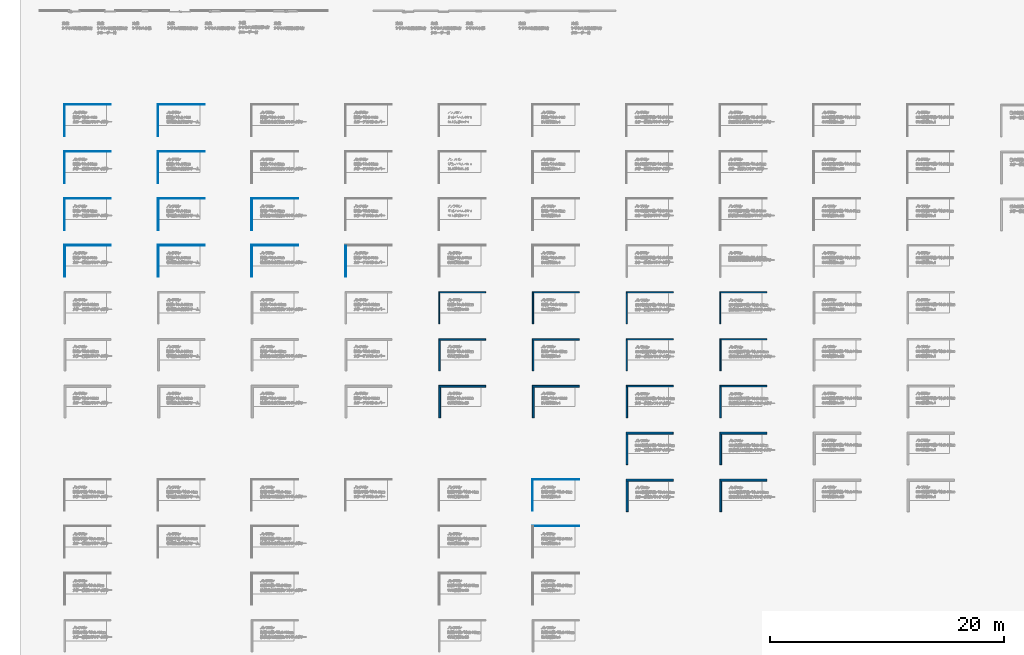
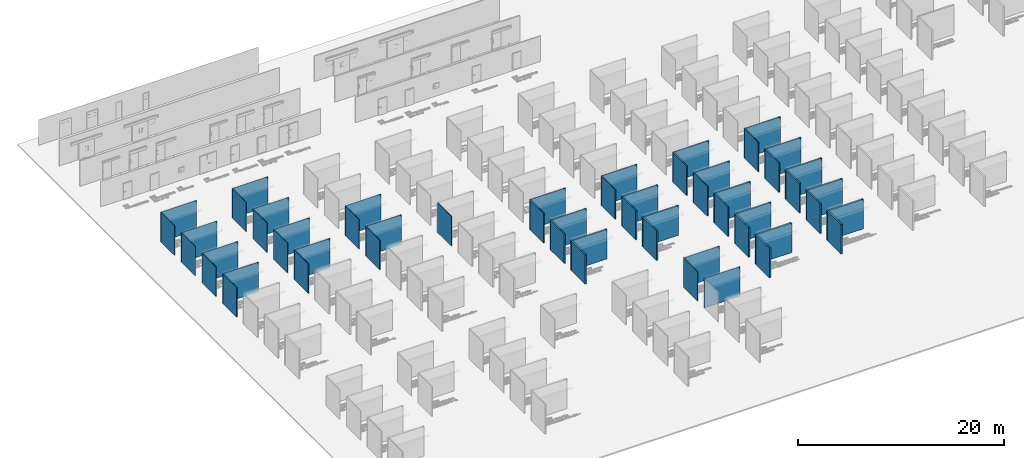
# One storey, part 2 of 16: 56 walls.
"""IFC2X3 building model written with IfcOpenShell, lengths in millimetres."""

import ifcopenshell
import ifcopenshell.guid

model = None  # the IFC model being written
_history = None  # IfcOwnerHistory: only IFC2X3 demands one
_inside = {}  # id of a spatial element -> (the spatial element, [elements in it])
_under = {}  # id of a project, library or spatial element -> (it, [spatial elements below it])
_declared = {}  # id of a project -> (the project, [libraries it declares])
_typed = {}  # id of a type object -> (the type object, [elements of that type])
_made_of = {}  # id of a material, layer set ... -> (it, [elements and type objects made of it])


def new_model(schema):
    """Start an empty IFC model of exactly this schema.

    Asked for "IFC4X3", IfcOpenShell would pick the latest addendum, in which some entities
    have other attributes; the version numbers below select the first issue.
    IFC2X3 requires an IfcOwnerHistory on every rooted entity: one is made here for all.
    """
    global model, _history
    if schema == "IFC4X3":
        model = ifcopenshell.file(schema_version=(4, 3, 0, 0))
    else:
        model = ifcopenshell.file(schema=schema)
    _inside.clear()
    _under.clear()
    _declared.clear()
    _typed.clear()
    _made_of.clear()
    _history = None
    if model.schema == "IFC2X3":
        org = make("IfcOrganization", Name="unknown")
        user = make(
            "IfcPersonAndOrganization",
            ThePerson=make("IfcPerson", FamilyName="unknown"),
            TheOrganization=org,
        )
        app = make(
            "IfcApplication",
            ApplicationDeveloper=org,
            Version="unknown",
            ApplicationFullName="unknown",
            ApplicationIdentifier="unknown",
        )
        _history = make(
            "IfcOwnerHistory",
            OwningUser=user,
            OwningApplication=app,
            ChangeAction="ADDED",
            CreationDate=0,
        )
    return model


def make(cls, **values):
    """One entity of the class cls with the attributes given. An attribute that is None is left unset."""
    return model.create_entity(
        cls, **{name: value for name, value in values.items() if value is not None}
    )


def entity(cls, *values):
    """Any entity or typed value of the class cls, its attributes in the order of the schema. None: left unset."""
    e = model.create_entity(cls)
    for i, value in enumerate(values):
        if value is not None:
            e[i] = value
    return e


def rooted(cls, **values):
    """An entity with a GlobalId (a new one), such as an element, a storey or a relation."""
    return make(cls, GlobalId=ifcopenshell.guid.new(), OwnerHistory=_history, **values)


def si_unit(unit_type, name, prefix=None):
    """IfcSIUnit, for example si_unit("LENGTHUNIT", "METRE", prefix="MILLI")."""
    return make("IfcSIUnit", UnitType=unit_type, Prefix=prefix, Name=name)


def converted_unit(unit_type, name, factor, base, dimensions=None, offset=None):
    """IfcConversionBasedUnit, such as the inch: factor (a typed value) times the base unit."""
    return make(
        "IfcConversionBasedUnit"
        if offset is None
        else "IfcConversionBasedUnitWithOffset",
        ConversionOffset=offset,
        Dimensions=None
        if dimensions is None
        else entity("IfcDimensionalExponents", *dimensions),
        UnitType=unit_type,
        Name=name,
        ConversionFactor=make(
            "IfcMeasureWithUnit", ValueComponent=factor, UnitComponent=base
        ),
    )


def derived_unit(unit_type, elements):
    """IfcDerivedUnit: a product of units, each with its exponent."""
    return make(
        "IfcDerivedUnit",
        Elements=[
            make("IfcDerivedUnitElement", Unit=unit, Exponent=power)
            for unit, power in elements
        ],
        UnitType=unit_type,
    )


def assignment(units):
    """IfcUnitAssignment: the units of a project."""
    return None if units is None else make("IfcUnitAssignment", Units=units)


def point(xyz):
    """IfcCartesianPoint."""
    return None if xyz is None else make("IfcCartesianPoint", Coordinates=xyz)


def direction(xyz):
    """IfcDirection."""
    return None if xyz is None else make("IfcDirection", DirectionRatios=xyz)


def frame(location, z_axis=None, x_axis=None):
    """IfcAxis2Placement3D, a coordinate frame: its origin and axes. An axis left out is left unset."""
    return make(
        "IfcAxis2Placement3D",
        Location=point(location),
        Axis=direction(z_axis),
        RefDirection=direction(x_axis),
    )


def frame_2d(location, x_axis=None):
    """IfcAxis2Placement2D, a coordinate frame in the plane: its origin and x axis."""
    return make(
        "IfcAxis2Placement2D", Location=point(location), RefDirection=direction(x_axis)
    )


def origin():
    """The frame at (0, 0, 0) with its axes left unset."""
    return frame((0.0, 0.0, 0.0))


def place(relative_to, where):
    """IfcLocalPlacement: puts the frame where relative to a parent placement (None: the world)."""
    return make(
        "IfcLocalPlacement", PlacementRelTo=relative_to, RelativePlacement=where
    )


def context(
    kind, dimensions, precision=None, world=None, true_north=None, identifier=None
):
    """IfcGeometricRepresentationContext, for example the 3D "Model" context."""
    return make(
        "IfcGeometricRepresentationContext",
        ContextIdentifier=identifier,
        ContextType=kind,
        CoordinateSpaceDimension=dimensions,
        Precision=precision,
        WorldCoordinateSystem=world,
        TrueNorth=true_north,
    )


def subcontext(parent, identifier, kind, view, scale=None):
    """IfcGeometricRepresentationSubContext, for example "Body" below "Model"."""
    return make(
        "IfcGeometricRepresentationSubContext",
        ContextIdentifier=identifier,
        ContextType=kind,
        ParentContext=parent,
        TargetScale=scale,
        TargetView=view,
    )


def project(units=None, contexts=None):
    """IfcProject with its units and contexts."""
    return rooted(
        "IfcProject",
        Name="project",
        RepresentationContexts=contexts,
        UnitsInContext=assignment(units),
    )


def spatial(cls, under=None, at=None, **own):
    """A site, building, storey or space (cls), placed at a placement, below another one or the project."""
    s = rooted(cls, ObjectPlacement=at, **own)
    if under is not None:
        _under.setdefault(under.id(), (under, []))[1].append(s)
    return s


def profile(cls, at=None, kind="AREA", **sizes):
    """A parametric profile (cls). Its sizes go by their IFC names, for example OverallWidth=200.0."""
    return make(cls, ProfileType=kind, Position=at, **sizes)


def rectangle(**sizes):
    """IfcRectangleProfileDef."""
    return profile("IfcRectangleProfileDef", **sizes)


def extrude(swept, where, along, depth):
    """IfcExtrudedAreaSolid: the profile swept, set in the frame where, extruded along a direction by depth."""
    return make(
        "IfcExtrudedAreaSolid",
        SweptArea=swept,
        Position=where,
        ExtrudedDirection=direction(along),
        Depth=depth,
    )


def shape(context_of_items, identifier, shape_type, items):
    """IfcShapeRepresentation: the items that make up one representation, for example the "Body"."""
    return make(
        "IfcShapeRepresentation",
        ContextOfItems=context_of_items,
        RepresentationIdentifier=identifier,
        RepresentationType=shape_type,
        Items=items,
    )


def material(Name=None, Category=None):
    """IfcMaterial."""
    return make("IfcMaterial", Name=Name, Category=Category)


def layer(
    of_material, thickness, ventilated=None, Name=None, Category=None, Priority=None
):
    """IfcMaterialLayer: one layer of a wall or slab, of a material (None: an air gap)."""
    return make(
        "IfcMaterialLayer",
        Material=of_material,
        LayerThickness=thickness,
        IsVentilated=ventilated,
        Name=Name,
        Category=Category,
        Priority=Priority,
    )


def layer_set(layers, Name=None):
    """IfcMaterialLayerSet."""
    return make("IfcMaterialLayerSet", MaterialLayers=layers, LayerSetName=Name)


def layer_usage(for_layer_set, set_direction, sense, offset, extent=None):
    """IfcMaterialLayerSetUsage: how a layer set lies in its element."""
    return make(
        "IfcMaterialLayerSetUsage",
        ForLayerSet=for_layer_set,
        LayerSetDirection=set_direction,
        DirectionSense=sense,
        OffsetFromReferenceLine=offset,
        ReferenceExtent=extent,
    )


def made_of(thing, what):
    """Note that an element or type object is made of a material, layer set ...; save() writes the relation."""
    if what is not None:
        _made_of.setdefault(what.id(), (what, []))[1].append(thing)
    return thing


def type_object(cls, material=None, **own):
    """A type object (cls), such as IfcWallType, which elements share."""
    return made_of(rooted(cls, **own), material)


def element(
    cls,
    number,
    at=None,
    inside=None,
    cuts=None,
    type_object=None,
    material=None,
    context=None,
    identifier="Body",
    shape_type=None,
    held_by="IfcProductDefinitionShape",
    body=None,
    shapes=None,
    **own,
):
    """One element of the class cls, such as IfcWall. Its Tag is "e" and its number.

    at: its placement. inside: the storey or other place that contains it. cuts: it is an
    opening in that element (IfcRelVoidsElement). A single representation is given by context,
    identifier, shape_type and body (its items); several are given by shapes. held_by: the class
    of the entity that holds the representations. save() writes the other relations.
    """
    e = rooted(cls, Tag="e%d" % number, ObjectPlacement=at, **own)
    if body is not None:
        shapes = [shape(context, identifier, shape_type, body)]
    if shapes is not None:
        e.Representation = make(held_by, Representations=shapes)
    if inside is not None:
        _inside.setdefault(inside.id(), (inside, []))[1].append(e)
    if cuts is not None:
        rooted(
            "IfcRelVoidsElement", RelatingBuildingElement=cuts, RelatedOpeningElement=e
        )
    if type_object is not None:
        _typed.setdefault(type_object.id(), (type_object, []))[1].append(e)
    return made_of(e, material)


def aggregate(whole, parts):
    """IfcRelAggregates: a whole, such as a stair, and the parts it consists of."""
    return rooted("IfcRelAggregates", RelatingObject=whole, RelatedObjects=parts)


def save(model, path):
    """Write the relations noted so far, then the file.

    IfcRelAggregates (storeys below a building ...), IfcRelContainedInSpatialStructure (elements
    in a storey), IfcRelDefinesByType, IfcRelAssociatesMaterial and IfcRelDeclares: one each for
    every whole, place, type object, material and project.
    """
    for whole, parts in _under.values():
        aggregate(whole, parts)
    for where, things in _inside.values():
        rooted(
            "IfcRelContainedInSpatialStructure",
            RelatedElements=things,
            RelatingStructure=where,
        )
    for kind, things in _typed.values():
        rooted("IfcRelDefinesByType", RelatedObjects=things, RelatingType=kind)
    for what, things in _made_of.values():
        rooted("IfcRelAssociatesMaterial", RelatedObjects=things, RelatingMaterial=what)
    for by, libraries in _declared.values():
        rooted("IfcRelDeclares", RelatingContext=by, RelatedDefinitions=libraries)
    model.write(path)


model = new_model("IFC2X3")

# Units and contexts
model_context = context("Model", 3, precision=0.01, world=origin(), true_north=direction((6.123031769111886e-17, 1.0)))
body_context = subcontext(model_context, "Body", "Model", "MODEL_VIEW")
ifc_project = project(units=[si_unit("LENGTHUNIT", "METRE", prefix="MILLI"), si_unit("AREAUNIT", "SQUARE_METRE"), si_unit("VOLUMEUNIT", "CUBIC_METRE"), converted_unit("PLANEANGLEUNIT", "DEGREE", entity("IfcRatioMeasure", 0.017453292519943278), si_unit("PLANEANGLEUNIT", "RADIAN"), dimensions=[0, 0, 0, 0, 0, 0, 0]), si_unit("MASSUNIT", "GRAM", prefix="KILO"), derived_unit("MASSDENSITYUNIT", [(si_unit("MASSUNIT", "GRAM", prefix="KILO"), 1), (si_unit("LENGTHUNIT", "METRE"), -3)]), derived_unit("IONCONCENTRATIONUNIT", [(si_unit("MASSUNIT", "GRAM", prefix="KILO"), 1), (si_unit("LENGTHUNIT", "METRE"), -3)]), derived_unit("MOMENTOFINERTIAUNIT", [(si_unit("LENGTHUNIT", "METRE"), 4)]), si_unit("TIMEUNIT", "SECOND"), si_unit("FREQUENCYUNIT", "HERTZ"), si_unit("THERMODYNAMICTEMPERATUREUNIT", "DEGREE_CELSIUS"), derived_unit("THERMALTRANSMITTANCEUNIT", [(si_unit("MASSUNIT", "GRAM", prefix="KILO"), 1), (si_unit("THERMODYNAMICTEMPERATUREUNIT", "KELVIN"), -1), (si_unit("TIMEUNIT", "SECOND"), -3)]), derived_unit("THERMALCONDUCTANCEUNIT", [(si_unit("MASSUNIT", "GRAM", prefix="KILO"), 1), (si_unit("THERMODYNAMICTEMPERATUREUNIT", "KELVIN"), -1), (si_unit("TIMEUNIT", "SECOND"), -3), (si_unit("LENGTHUNIT", "METRE"), 1)]), derived_unit("VOLUMETRICFLOWRATEUNIT", [(si_unit("LENGTHUNIT", "METRE"), 3), (si_unit("TIMEUNIT", "SECOND"), -1)]), derived_unit("MASSFLOWRATEUNIT", [(si_unit("MASSUNIT", "GRAM", prefix="KILO"), 1), (si_unit("TIMEUNIT", "SECOND"), -1)]), derived_unit("ROTATIONALFREQUENCYUNIT", [(si_unit("TIMEUNIT", "SECOND"), -1)]), si_unit("ELECTRICCURRENTUNIT", "AMPERE"), si_unit("ELECTRICVOLTAGEUNIT", "VOLT"), si_unit("POWERUNIT", "WATT"), si_unit("FORCEUNIT", "NEWTON", prefix="KILO"), si_unit("ILLUMINANCEUNIT", "LUX"), si_unit("LUMINOUSFLUXUNIT", "LUMEN"), si_unit("LUMINOUSINTENSITYUNIT", "CANDELA"), derived_unit("USERDEFINED", [(si_unit("MASSUNIT", "GRAM", prefix="KILO"), -1), (si_unit("LENGTHUNIT", "METRE"), -2), (si_unit("TIMEUNIT", "SECOND"), 3), (si_unit("LUMINOUSFLUXUNIT", "LUMEN"), 1)]), derived_unit("USERDEFINED", [(si_unit("MASSUNIT", "GRAM", prefix="KILO"), 1), (si_unit("TIMEUNIT", "SECOND"), -3), (si_unit("LENGTHUNIT", "METRE"), 3), (si_unit("ELECTRICCURRENTUNIT", "AMPERE"), -2)]), derived_unit("SOUNDPOWERUNIT", [(si_unit("MASSUNIT", "GRAM", prefix="KILO"), 1), (si_unit("TIMEUNIT", "SECOND"), -3), (si_unit("LENGTHUNIT", "METRE"), 2)]), derived_unit("SOUNDPRESSUREUNIT", [(si_unit("MASSUNIT", "GRAM", prefix="KILO"), 1), (si_unit("LENGTHUNIT", "METRE"), -1), (si_unit("TIMEUNIT", "SECOND"), -2)]), derived_unit("LINEARVELOCITYUNIT", [(si_unit("LENGTHUNIT", "METRE"), 1), (si_unit("TIMEUNIT", "SECOND"), -1)]), si_unit("PRESSUREUNIT", "PASCAL"), derived_unit("USERDEFINED", [(si_unit("MASSUNIT", "GRAM", prefix="KILO"), 1), (si_unit("LENGTHUNIT", "METRE"), -2), (si_unit("TIMEUNIT", "SECOND"), -2)]), derived_unit("LINEARFORCEUNIT", [(si_unit("MASSUNIT", "GRAM", prefix="KILO"), 1), (si_unit("TIMEUNIT", "SECOND"), -2)]), derived_unit("PLANARFORCEUNIT", [(si_unit("MASSUNIT", "GRAM", prefix="KILO"), 1), (si_unit("LENGTHUNIT", "METRE"), -1), (si_unit("TIMEUNIT", "SECOND"), -2)]), derived_unit("SPECIFICHEATCAPACITYUNIT", [(si_unit("THERMODYNAMICTEMPERATUREUNIT", "KELVIN"), -1), (si_unit("LENGTHUNIT", "METRE"), 2), (si_unit("TIMEUNIT", "SECOND"), -2)]), derived_unit("HEATINGVALUEUNIT", [(si_unit("LENGTHUNIT", "METRE"), 2), (si_unit("TIMEUNIT", "SECOND"), -2)]), derived_unit("VAPORPERMEABILITYUNIT", [(si_unit("LENGTHUNIT", "METRE"), -1), (si_unit("TIMEUNIT", "SECOND"), 1)]), derived_unit("DYNAMICVISCOSITYUNIT", [(si_unit("MASSUNIT", "GRAM", prefix="KILO"), 1), (si_unit("TIMEUNIT", "SECOND"), -1), (si_unit("LENGTHUNIT", "METRE"), -1)]), derived_unit("THERMALEXPANSIONCOEFFICIENTUNIT", [(si_unit("THERMODYNAMICTEMPERATUREUNIT", "KELVIN"), -1)]), derived_unit("MODULUSOFELASTICITYUNIT", [(si_unit("MASSUNIT", "GRAM", prefix="KILO"), 1), (si_unit("LENGTHUNIT", "METRE"), -1), (si_unit("TIMEUNIT", "SECOND"), -2)]), derived_unit("ISOTHERMALMOISTURECAPACITYUNIT", [(si_unit("LENGTHUNIT", "METRE"), 3), (si_unit("MASSUNIT", "GRAM", prefix="KILO"), -1)]), derived_unit("MOISTUREDIFFUSIVITYUNIT", [(si_unit("TIMEUNIT", "SECOND"), -1), (si_unit("LENGTHUNIT", "METRE"), 2)])], contexts=[model_context])

# Site, building, storey
site_placement = place(None, origin())
site = spatial("IfcSite", under=ifc_project, at=site_placement, Name="Default", CompositionType="ELEMENT")
building_placement = place(site_placement, origin())
building = spatial("IfcBuilding", under=site, at=building_placement, CompositionType="ELEMENT")
storey_placement = place(building_placement, frame((0.0, 0.0, 500.0)))
storey = spatial("IfcBuildingStorey", under=building, at=storey_placement, Name="レベル 1", CompositionType="ELEMENT", Elevation=500.00000000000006)

# Walls
ifc_material_1 = material(Name="g-p_硬質ウレタンフォーム")
ifc_layer_1 = layer(ifc_material_1, 44.0)
ifc_layer_set_1 = layer_set([ifc_layer_1], Name="標準壁:g-p_断熱パネル(フラット)t44")
ifc_layer_usage_1 = layer_usage(ifc_layer_set_1, "AXIS2", "NEGATIVE", 22.0)
wall_type_1 = type_object("IfcWallType", Name="標準壁:g-p_断熱パネル(フラット)t44", PredefinedType="STANDARD", material=ifc_layer_set_1)
wall_1_placement = place(storey_placement, frame((-24000.0, 11978.0, 0.0)))
element("IfcWallStandardCase", 1, at=wall_1_placement, inside=storey, type_object=wall_type_1, material=ifc_layer_usage_1, Name="標準壁:g-p_断熱パネル(フラット)t44", ObjectType="標準壁:g-p_断熱パネル(フラット)t44", context=body_context, shape_type="SweptSolid", body=[
    extrude(rectangle(XDim=3999.999999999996, YDim=43.99999999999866, at=frame_2d((1999.999999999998, 0.0), x_axis=(-1.0, 0.0))), origin(), (0.0, 0.0, 1.0), 3500.0000000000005),
])
wall_2_placement = place(storey_placement, frame((-23978.0, 11956.0, 0.0), z_axis=(0.0, 0.0, 1.0), x_axis=(0.0, -1.0, 0.0)))
element("IfcWallStandardCase", 2, at=wall_2_placement, inside=storey, type_object=wall_type_1, material=ifc_layer_usage_1, Name="標準壁:g-p_断熱パネル(フラット)t44", ObjectType="標準壁:g-p_断熱パネル(フラット)t44", context=body_context, shape_type="SweptSolid", body=[
    extrude(rectangle(XDim=2677.9999999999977, YDim=43.999999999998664, at=frame_2d((1338.9999999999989, -1.1262102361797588e-12), x_axis=(-1.0, 0.0))), origin(), (0.0, 0.0, 1.0), 3500.0000000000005),
])
wall_3_placement = place(storey_placement, frame((-16000.0, 11978.0, 0.0)))
element("IfcWallStandardCase", 3, at=wall_3_placement, inside=storey, type_object=wall_type_1, material=ifc_layer_usage_1, Name="標準壁:g-p_断熱パネル(フラット)t44", ObjectType="標準壁:g-p_断熱パネル(フラット)t44", context=body_context, shape_type="SweptSolid", body=[
    extrude(rectangle(XDim=3999.999999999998, YDim=43.99999999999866, at=frame_2d((1999.999999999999, 0.0), x_axis=(-1.0, 0.0))), origin(), (0.0, 0.0, 1.0), 3500.0000000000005),
])
wall_4_placement = place(storey_placement, frame((-15978.0, 11956.0, 0.0), z_axis=(0.0, 0.0, 1.0), x_axis=(0.0, -1.0, 0.0)))
element("IfcWallStandardCase", 4, at=wall_4_placement, inside=storey, type_object=wall_type_1, material=ifc_layer_usage_1, Name="標準壁:g-p_断熱パネル(フラット)t44", ObjectType="標準壁:g-p_断熱パネル(フラット)t44", context=body_context, shape_type="SweptSolid", body=[
    extrude(rectangle(XDim=2677.9999999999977, YDim=43.99999999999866, at=frame_2d((1338.9999999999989, -4.440892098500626e-14), x_axis=(-1.0, 0.0))), origin(), (0.0, 0.0, 1.0), 3500.0000000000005),
])
ifc_layer_2 = layer(ifc_material_1, 50.0)
ifc_layer_set_2 = layer_set([ifc_layer_2], Name="標準壁:g-p_断熱パネル(フラット)t50")
ifc_layer_usage_2 = layer_usage(ifc_layer_set_2, "AXIS2", "NEGATIVE", 25.0)
wall_type_2 = type_object("IfcWallType", Name="標準壁:g-p_断熱パネル(フラット)t50", PredefinedType="STANDARD", material=ifc_layer_set_2)
wall_5_placement = place(storey_placement, frame((-24000.0, 7975.0, 0.0)))
element("IfcWallStandardCase", 5, at=wall_5_placement, inside=storey, type_object=wall_type_2, material=ifc_layer_usage_2, Name="標準壁:g-p_断熱パネル(フラット)t50", ObjectType="標準壁:g-p_断熱パネル(フラット)t50", context=body_context, shape_type="SweptSolid", body=[
    extrude(rectangle(XDim=4000.0000000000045, YDim=49.99999999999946, at=frame_2d((2000.0000000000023, 0.0), x_axis=(-1.0, 0.0))), origin(), (0.0, 0.0, 1.0), 3500.0000000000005),
])
wall_6_placement = place(storey_placement, frame((-23975.0, 7950.0, 0.0), z_axis=(0.0, 0.0, 1.0), x_axis=(0.0, -1.0, 0.0)))
element("IfcWallStandardCase", 6, at=wall_6_placement, inside=storey, type_object=wall_type_2, material=ifc_layer_usage_2, Name="標準壁:g-p_断熱パネル(フラット)t50", ObjectType="標準壁:g-p_断熱パネル(フラット)t50", context=body_context, shape_type="SweptSolid", body=[
    extrude(rectangle(XDim=2674.9999999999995, YDim=49.9999999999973, at=frame_2d((1337.4999999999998, -1.1333156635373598e-12), x_axis=(-1.0, 0.0))), origin(), (0.0, 0.0, 1.0), 3500.0000000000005),
])
wall_7_placement = place(storey_placement, frame((-16000.0, 7975.0, 0.0)))
element("IfcWallStandardCase", 7, at=wall_7_placement, inside=storey, type_object=wall_type_2, material=ifc_layer_usage_2, Name="標準壁:g-p_断熱パネル(フラット)t50", ObjectType="標準壁:g-p_断熱パネル(フラット)t50", context=body_context, shape_type="SweptSolid", body=[
    extrude(rectangle(XDim=4000.0000000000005, YDim=49.99999999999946, at=frame_2d((2000.0000000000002, 0.0), x_axis=(-1.0, 0.0))), origin(), (0.0, 0.0, 1.0), 3500.0000000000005),
])
wall_8_placement = place(storey_placement, frame((-15975.0, 7950.0, 0.0), z_axis=(0.0, 0.0, 1.0), x_axis=(0.0, -1.0, 0.0)))
element("IfcWallStandardCase", 8, at=wall_8_placement, inside=storey, type_object=wall_type_2, material=ifc_layer_usage_2, Name="標準壁:g-p_断熱パネル(フラット)t50", ObjectType="標準壁:g-p_断熱パネル(フラット)t50", context=body_context, shape_type="SweptSolid", body=[
    extrude(rectangle(XDim=2674.9999999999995, YDim=50.00000000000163, at=frame_2d((1337.4999999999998, -5.1514348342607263e-14), x_axis=(-1.0, 0.0))), origin(), (0.0, 0.0, 1.0), 3500.0000000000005),
])
ifc_layer_3 = layer(ifc_material_1, 62.0)
ifc_layer_set_3 = layer_set([ifc_layer_3], Name="標準壁:g-p_断熱パネル(フラット)t62")
ifc_layer_usage_3 = layer_usage(ifc_layer_set_3, "AXIS2", "NEGATIVE", 31.0)
wall_type_3 = type_object("IfcWallType", Name="標準壁:g-p_断熱パネル(フラット)t62", PredefinedType="STANDARD", material=ifc_layer_set_3)
wall_9_placement = place(storey_placement, frame((-24000.0, 3969.0, 0.0)))
element("IfcWallStandardCase", 9, at=wall_9_placement, inside=storey, type_object=wall_type_3, material=ifc_layer_usage_3, Name="標準壁:g-p_断熱パネル(フラット)t62", ObjectType="標準壁:g-p_断熱パネル(フラット)t62", context=body_context, shape_type="SweptSolid", body=[
    extrude(rectangle(XDim=4000.0000000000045, YDim=61.999999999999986, at=frame_2d((2000.0000000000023, 0.0), x_axis=(-1.0, 0.0))), origin(), (0.0, 0.0, 1.0), 3500.0000000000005),
])
wall_10_placement = place(storey_placement, frame((-23969.0, 3938.0, 0.0), z_axis=(0.0, 0.0, 1.0), x_axis=(0.0, -1.0, 0.0)))
element("IfcWallStandardCase", 10, at=wall_10_placement, inside=storey, type_object=wall_type_3, material=ifc_layer_usage_3, Name="標準壁:g-p_断熱パネル(フラット)t62", ObjectType="標準壁:g-p_断熱パネル(フラット)t62", context=body_context, shape_type="SweptSolid", body=[
    extrude(rectangle(XDim=2668.9999999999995, YDim=62.00000000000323, at=frame_2d((1334.4999999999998, -1.1439738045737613e-12), x_axis=(-1.0, 0.0))), origin(), (0.0, 0.0, 1.0), 3500.0000000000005),
])
wall_11_placement = place(storey_placement, frame((-16000.0, 3969.0, 0.0)))
element("IfcWallStandardCase", 11, at=wall_11_placement, inside=storey, type_object=wall_type_3, material=ifc_layer_usage_3, Name="標準壁:g-p_断熱パネル(フラット)t62", ObjectType="標準壁:g-p_断熱パネル(フラット)t62", context=body_context, shape_type="SweptSolid", body=[
    extrude(rectangle(XDim=4000.000000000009, YDim=61.999999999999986, at=frame_2d((2000.0000000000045, 0.0), x_axis=(-1.0, 0.0))), origin(), (0.0, 0.0, 1.0), 3500.0000000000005),
])
wall_12_placement = place(storey_placement, frame((-15969.0, 3938.0, 0.0), z_axis=(0.0, 0.0, 1.0), x_axis=(0.0, -1.0, 0.0)))
element("IfcWallStandardCase", 12, at=wall_12_placement, inside=storey, type_object=wall_type_3, material=ifc_layer_usage_3, Name="標準壁:g-p_断熱パネル(フラット)t62", ObjectType="標準壁:g-p_断熱パネル(フラット)t62", context=body_context, shape_type="SweptSolid", body=[
    extrude(rectangle(XDim=2668.9999999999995, YDim=61.999999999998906, at=frame_2d((1334.4999999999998, -6.039613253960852e-14), x_axis=(-1.0, 0.0))), origin(), (0.0, 0.0, 1.0), 3500.0000000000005),
])
wall_13_placement = place(storey_placement, frame((-8000.0, 3969.0, 0.0)))
element("IfcWallStandardCase", 13, at=wall_13_placement, inside=storey, type_object=wall_type_3, material=ifc_layer_usage_3, Name="標準壁:g-p_断熱パネル(フラット)t62", ObjectType="標準壁:g-p_断熱パネル(フラット)t62", context=body_context, shape_type="SweptSolid", body=[
    extrude(rectangle(XDim=4000.000000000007, YDim=61.999999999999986, at=frame_2d((2000.0000000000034, 0.0), x_axis=(-1.0, 0.0))), origin(), (0.0, 0.0, 1.0), 3500.0000000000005),
])
wall_14_placement = place(storey_placement, frame((-7969.0, 3938.0, 0.0), z_axis=(0.0, 0.0, 1.0), x_axis=(0.0, -1.0, 0.0)))
element("IfcWallStandardCase", 14, at=wall_14_placement, inside=storey, type_object=wall_type_3, material=ifc_layer_usage_3, Name="標準壁:g-p_断熱パネル(フラット)t62", ObjectType="標準壁:g-p_断熱パネル(フラット)t62", context=body_context, shape_type="SweptSolid", body=[
    extrude(rectangle(XDim=2668.9999999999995, YDim=62.000000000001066, at=frame_2d((1334.4999999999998, -6.217248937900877e-14), x_axis=(-1.0, 0.0))), origin(), (0.0, 0.0, 1.0), 3500.0000000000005),
])
ifc_layer_4 = layer(ifc_material_1, 77.0)
ifc_layer_set_4 = layer_set([ifc_layer_4], Name="標準壁:g-p_断熱パネル(フラット)t77")
ifc_layer_usage_4 = layer_usage(ifc_layer_set_4, "AXIS2", "NEGATIVE", 38.5)
wall_type_4 = type_object("IfcWallType", Name="標準壁:g-p_断熱パネル(フラット)t77", PredefinedType="STANDARD", material=ifc_layer_set_4)
wall_15_placement = place(storey_placement, frame((-24000.0, -38.499999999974, 0.0)))
element("IfcWallStandardCase", 15, at=wall_15_placement, inside=storey, type_object=wall_type_4, material=ifc_layer_usage_4, Name="標準壁:g-p_断熱パネル(フラット)t77", ObjectType="標準壁:g-p_断熱パネル(フラット)t77", context=body_context, shape_type="SweptSolid", body=[
    extrude(rectangle(XDim=4000.0000000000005, YDim=77.00000000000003, at=frame_2d((2000.0000000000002, -1.0658141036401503e-14), x_axis=(-1.0, 0.0))), origin(), (0.0, 0.0, 1.0), 3500.0000000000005),
])
wall_16_placement = place(storey_placement, frame((-23961.5, -77.0, 0.0), z_axis=(0.0, 0.0, 1.0), x_axis=(0.0, -1.0, 0.0)))
element("IfcWallStandardCase", 16, at=wall_16_placement, inside=storey, type_object=wall_type_4, material=ifc_layer_usage_4, Name="標準壁:g-p_断熱パネル(フラット)t77", ObjectType="標準壁:g-p_断熱パネル(フラット)t77", context=body_context, shape_type="SweptSolid", body=[
    extrude(rectangle(XDim=2661.5000000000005, YDim=76.99999999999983, at=frame_2d((1330.7500000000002, -1.1581846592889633e-12), x_axis=(-1.0, 0.0))), origin(), (0.0, 0.0, 1.0), 3500.0000000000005),
])
wall_17_placement = place(storey_placement, frame((-16000.0, -38.499999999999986, 0.0)))
element("IfcWallStandardCase", 17, at=wall_17_placement, inside=storey, type_object=wall_type_4, material=ifc_layer_usage_4, Name="標準壁:g-p_断熱パネル(フラット)t77", ObjectType="標準壁:g-p_断熱パネル(フラット)t77", context=body_context, shape_type="SweptSolid", body=[
    extrude(rectangle(XDim=4000.0000000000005, YDim=77.00000000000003, at=frame_2d((2000.0000000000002, -1.0658141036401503e-14), x_axis=(-1.0, 0.0))), origin(), (0.0, 0.0, 1.0), 3500.0000000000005),
])
wall_18_placement = place(storey_placement, frame((-15961.500000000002, -77.0, 0.0), z_axis=(0.0, 0.0, 1.0), x_axis=(0.0, -1.0, 0.0)))
element("IfcWallStandardCase", 18, at=wall_18_placement, inside=storey, type_object=wall_type_4, material=ifc_layer_usage_4, Name="標準壁:g-p_断熱パネル(フラット)t77", ObjectType="標準壁:g-p_断熱パネル(フラット)t77", context=body_context, shape_type="SweptSolid", body=[
    extrude(rectangle(XDim=2661.5000000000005, YDim=76.99999999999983, at=frame_2d((1330.7500000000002, -7.460698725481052e-14), x_axis=(-1.0, 0.0))), origin(), (0.0, 0.0, 1.0), 3500.0000000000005),
])
wall_19_placement = place(storey_placement, frame((-8000.0, -38.50000000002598, 0.0)))
element("IfcWallStandardCase", 19, at=wall_19_placement, inside=storey, type_object=wall_type_4, material=ifc_layer_usage_4, Name="標準壁:g-p_断熱パネル(フラット)t77", ObjectType="標準壁:g-p_断熱パネル(フラット)t77", context=body_context, shape_type="SweptSolid", body=[
    extrude(rectangle(XDim=4000.0000000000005, YDim=77.00000000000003, at=frame_2d((2000.0000000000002, -1.0658141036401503e-14), x_axis=(-1.0, 0.0))), origin(), (0.0, 0.0, 1.0), 3500.0000000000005),
])
wall_20_placement = place(storey_placement, frame((-7961.500000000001, -77.0, 0.0), z_axis=(0.0, 0.0, 1.0), x_axis=(0.0, -1.0, 0.0)))
element("IfcWallStandardCase", 20, at=wall_20_placement, inside=storey, type_object=wall_type_4, material=ifc_layer_usage_4, Name="標準壁:g-p_断熱パネル(フラット)t77", ObjectType="標準壁:g-p_断熱パネル(フラット)t77", context=body_context, shape_type="SweptSolid", body=[
    extrude(rectangle(XDim=2661.5000000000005, YDim=76.99999999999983, at=frame_2d((1330.7500000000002, -7.460698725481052e-14), x_axis=(-1.0, 0.0))), origin(), (0.0, 0.0, 1.0), 3500.0000000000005),
])
wall_21_placement = place(storey_placement, frame((38.49999999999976, -77.0, 0.0), z_axis=(0.0, 0.0, 1.0), x_axis=(0.0, -1.0, 0.0)))
element("IfcWallStandardCase", 21, at=wall_21_placement, inside=storey, type_object=wall_type_4, material=ifc_layer_usage_4, Name="標準壁:g-p_断熱パネル(フラット)t77", ObjectType="標準壁:g-p_断熱パネル(フラット)t77", context=body_context, shape_type="SweptSolid", body=[
    extrude(rectangle(XDim=2661.5000000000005, YDim=77.00000000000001, at=frame_2d((1330.7500000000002, 0.0), x_axis=(-1.0, 0.0))), origin(), (0.0, 0.0, 1.0), 3500.0000000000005),
])
ifc_layer_5 = layer(ifc_material_1, 100.0)
ifc_layer_set_5 = layer_set([ifc_layer_5], Name="標準壁:g-p_断熱パネル(フラット)t100")
ifc_layer_usage_5 = layer_usage(ifc_layer_set_5, "AXIS2", "NEGATIVE", 49.99999999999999)
wall_type_5 = type_object("IfcWallType", Name="標準壁:g-p_断熱パネル(フラット)t100", PredefinedType="STANDARD", material=ifc_layer_set_5)
wall_22_placement = place(storey_placement, frame((8000.0, -4050.0, 0.0)))
element("IfcWallStandardCase", 22, at=wall_22_placement, inside=storey, type_object=wall_type_5, material=ifc_layer_usage_5, Name="標準壁:g-p_断熱パネル(フラット)t100", ObjectType="標準壁:g-p_断熱パネル(フラット)t100", context=body_context, shape_type="SweptSolid", body=[
    extrude(rectangle(XDim=4000.0000000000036, YDim=100.0, at=frame_2d((2000.0000000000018, 0.0), x_axis=(-1.0, 0.0))), origin(), (0.0, 0.0, 1.0), 3500.0000000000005),
])
wall_23_placement = place(storey_placement, frame((8050.0, -4100.0, 0.0), z_axis=(0.0, 0.0, 1.0), x_axis=(0.0, -1.0, 0.0)))
element("IfcWallStandardCase", 23, at=wall_23_placement, inside=storey, type_object=wall_type_5, material=ifc_layer_usage_5, Name="標準壁:g-p_断熱パネル(フラット)t100", ObjectType="標準壁:g-p_断熱パネル(フラット)t100", context=body_context, shape_type="SweptSolid", body=[
    extrude(rectangle(XDim=2649.9999999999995, YDim=99.99999999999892, at=frame_2d((1324.9999999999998, -9.947598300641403e-14), x_axis=(-1.0, 0.0))), origin(), (0.0, 0.0, 1.0), 3500.0000000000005),
])
wall_24_placement = place(storey_placement, frame((16000.0, -4050.0, 0.0)))
element("IfcWallStandardCase", 24, at=wall_24_placement, inside=storey, type_object=wall_type_5, material=ifc_layer_usage_5, Name="標準壁:g-p_断熱パネル(フラット)t100", ObjectType="標準壁:g-p_断熱パネル(フラット)t100", context=body_context, shape_type="SweptSolid", body=[
    extrude(rectangle(XDim=4000.0000000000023, YDim=100.0, at=frame_2d((2000.0000000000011, 0.0), x_axis=(-1.0, 0.0))), origin(), (0.0, 0.0, 1.0), 3500.0000000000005),
])
wall_25_placement = place(storey_placement, frame((16050.0, -4100.0, 0.0), z_axis=(0.0, 0.0, 1.0), x_axis=(0.0, -1.0, 0.0)))
element("IfcWallStandardCase", 25, at=wall_25_placement, inside=storey, type_object=wall_type_5, material=ifc_layer_usage_5, Name="標準壁:g-p_断熱パネル(フラット)t100", ObjectType="標準壁:g-p_断熱パネル(フラット)t100", context=body_context, shape_type="SweptSolid", body=[
    extrude(rectangle(XDim=2649.9999999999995, YDim=99.99999999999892, at=frame_2d((1324.9999999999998, -9.947598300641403e-14), x_axis=(-1.0, 0.0))), origin(), (0.0, 0.0, 1.0), 3500.0000000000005),
])
ifc_layer_6 = layer(ifc_material_1, 127.00000000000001)
ifc_layer_set_6 = layer_set([ifc_layer_6], Name="標準壁:g-p_断熱パネル(フラット)t127")
ifc_layer_usage_6 = layer_usage(ifc_layer_set_6, "AXIS2", "NEGATIVE", 63.50000000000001)
wall_type_6 = type_object("IfcWallType", Name="標準壁:g-p_断熱パネル(フラット)t127", PredefinedType="STANDARD", material=ifc_layer_set_6)
wall_26_placement = place(storey_placement, frame((8000.0, -8063.500000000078, 0.0)))
element("IfcWallStandardCase", 26, at=wall_26_placement, inside=storey, type_object=wall_type_6, material=ifc_layer_usage_6, Name="標準壁:g-p_断熱パネル(フラット)t127", ObjectType="標準壁:g-p_断熱パネル(フラット)t127", context=body_context, shape_type="SweptSolid", body=[
    extrude(rectangle(XDim=4000.0000000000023, YDim=126.99999999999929, at=frame_2d((2000.0000000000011, 0.0), x_axis=(-1.0, 0.0))), origin(), (0.0, 0.0, 1.0), 3500.0000000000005),
])
wall_27_placement = place(storey_placement, frame((8063.499999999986, -8127.0, 0.0), z_axis=(0.0, 0.0, 1.0), x_axis=(0.0, -1.0, 0.0)))
element("IfcWallStandardCase", 27, at=wall_27_placement, inside=storey, type_object=wall_type_6, material=ifc_layer_usage_6, Name="標準壁:g-p_断熱パネル(フラット)t127", ObjectType="標準壁:g-p_断熱パネル(フラット)t127", context=body_context, shape_type="SweptSolid", body=[
    extrude(rectangle(XDim=2636.5, YDim=126.99999999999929, at=frame_2d((1318.25, -1.2789769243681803e-13), x_axis=(-1.0, 0.0))), origin(), (0.0, 0.0, 1.0), 3500.0000000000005),
])
wall_28_placement = place(storey_placement, frame((16000.0, -8063.500000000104, 0.0)))
element("IfcWallStandardCase", 28, at=wall_28_placement, inside=storey, type_object=wall_type_6, material=ifc_layer_usage_6, Name="標準壁:g-p_断熱パネル(フラット)t127", ObjectType="標準壁:g-p_断熱パネル(フラット)t127", context=body_context, shape_type="SweptSolid", body=[
    extrude(rectangle(XDim=4000.0000000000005, YDim=126.99999999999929, at=frame_2d((2000.0000000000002, 0.0), x_axis=(-1.0, 0.0))), origin(), (0.0, 0.0, 1.0), 3500.0000000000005),
])
wall_29_placement = place(storey_placement, frame((16063.499999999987, -8127.0, 0.0), z_axis=(0.0, 0.0, 1.0), x_axis=(0.0, -1.0, 0.0)))
element("IfcWallStandardCase", 29, at=wall_29_placement, inside=storey, type_object=wall_type_6, material=ifc_layer_usage_6, Name="標準壁:g-p_断熱パネル(フラット)t127", ObjectType="標準壁:g-p_断熱パネル(フラット)t127", context=body_context, shape_type="SweptSolid", body=[
    extrude(rectangle(XDim=2636.5, YDim=127.00000000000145, at=frame_2d((1318.25, -1.2789769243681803e-13), x_axis=(-1.0, 0.0))), origin(), (0.0, 0.0, 1.0), 3500.0000000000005),
])
ifc_layer_7 = layer(ifc_material_1, 152.0)
ifc_layer_set_7 = layer_set([ifc_layer_7], Name="標準壁:g-p_断熱パネル(フラット)t152")
ifc_layer_usage_7 = layer_usage(ifc_layer_set_7, "AXIS2", "NEGATIVE", 75.99999999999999)
wall_type_7 = type_object("IfcWallType", Name="標準壁:g-p_断熱パネル(フラット)t152", PredefinedType="STANDARD", material=ifc_layer_set_7)
wall_30_placement = place(storey_placement, frame((8000.0, -12076.0, 0.0)))
element("IfcWallStandardCase", 30, at=wall_30_placement, inside=storey, type_object=wall_type_7, material=ifc_layer_usage_7, Name="標準壁:g-p_断熱パネル(フラット)t152", ObjectType="標準壁:g-p_断熱パネル(フラット)t152", context=body_context, shape_type="SweptSolid", body=[
    extrude(rectangle(XDim=4000.0000000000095, YDim=152.00000000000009, at=frame_2d((2000.0000000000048, 0.0), x_axis=(-1.0, 0.0))), origin(), (0.0, 0.0, 1.0), 3500.0000000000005),
])
wall_31_placement = place(storey_placement, frame((8076.0, -12152.0, 0.0), z_axis=(0.0, 0.0, 1.0), x_axis=(0.0, -1.0, 0.0)))
element("IfcWallStandardCase", 31, at=wall_31_placement, inside=storey, type_object=wall_type_7, material=ifc_layer_usage_7, Name="標準壁:g-p_断熱パネル(フラット)t152", ObjectType="標準壁:g-p_断熱パネル(フラット)t152", context=body_context, shape_type="SweptSolid", body=[
    extrude(rectangle(XDim=2623.999999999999, YDim=152.0000000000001, at=frame_2d((1311.9999999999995, -1.4921397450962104e-13), x_axis=(-1.0, 0.0))), origin(), (0.0, 0.0, 1.0), 3500.0000000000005),
])
wall_32_placement = place(storey_placement, frame((16000.0, -12076.0, 0.0)))
element("IfcWallStandardCase", 32, at=wall_32_placement, inside=storey, type_object=wall_type_7, material=ifc_layer_usage_7, Name="標準壁:g-p_断熱パネル(フラット)t152", ObjectType="標準壁:g-p_断熱パネル(フラット)t152", context=body_context, shape_type="SweptSolid", body=[
    extrude(rectangle(XDim=4000.0000000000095, YDim=152.00000000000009, at=frame_2d((2000.0000000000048, 0.0), x_axis=(-1.0, 0.0))), origin(), (0.0, 0.0, 1.0), 3500.0000000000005),
])
wall_33_placement = place(storey_placement, frame((16076.0, -12152.0, 0.0), z_axis=(0.0, 0.0, 1.0), x_axis=(0.0, -1.0, 0.0)))
element("IfcWallStandardCase", 33, at=wall_33_placement, inside=storey, type_object=wall_type_7, material=ifc_layer_usage_7, Name="標準壁:g-p_断熱パネル(フラット)t152", ObjectType="標準壁:g-p_断熱パネル(フラット)t152", context=body_context, shape_type="SweptSolid", body=[
    extrude(rectangle(XDim=2623.999999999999, YDim=152.0000000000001, at=frame_2d((1311.9999999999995, -1.4921397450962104e-13), x_axis=(-1.0, 0.0))), origin(), (0.0, 0.0, 1.0), 3500.0000000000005),
])
ifc_material_2 = material(Name="g-p_硬質イソシアヌレートフォーム")
ifc_layer_8 = layer(ifc_material_2, 44.0)
ifc_layer_set_8 = layer_set([ifc_layer_8], Name="標準壁:g-p_不燃断熱パネル(フラット)t44")
ifc_layer_usage_8 = layer_usage(ifc_layer_set_8, "AXIS2", "NEGATIVE", 22.0)
wall_type_8 = type_object("IfcWallType", Name="標準壁:g-p_不燃断熱パネル(フラット)t44", PredefinedType="STANDARD", material=ifc_layer_set_8)
wall_34_placement = place(storey_placement, frame((16000.0, -20022.0, 0.0)))
element("IfcWallStandardCase", 34, at=wall_34_placement, inside=storey, type_object=wall_type_8, material=ifc_layer_usage_8, Name="標準壁:g-p_不燃断熱パネル(フラット)t44", ObjectType="標準壁:g-p_不燃断熱パネル(フラット)t44", context=body_context, shape_type="SweptSolid", body=[
    extrude(rectangle(XDim=3999.999999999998, YDim=43.99999999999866, at=frame_2d((1999.999999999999, 0.0), x_axis=(-1.0, 0.0))), origin(), (0.0, 0.0, 1.0), 3500.0000000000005),
])
wall_35_placement = place(storey_placement, frame((16022.0, -20044.0, 0.0), z_axis=(0.0, 0.0, 1.0), x_axis=(0.0, -1.0, 0.0)))
element("IfcWallStandardCase", 35, at=wall_35_placement, inside=storey, type_object=wall_type_8, material=ifc_layer_usage_8, Name="標準壁:g-p_不燃断熱パネル(フラット)t44", ObjectType="標準壁:g-p_不燃断熱パネル(フラット)t44", context=body_context, shape_type="SweptSolid", body=[
    extrude(rectangle(XDim=2678.000000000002, YDim=43.99999999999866, at=frame_2d((1339.000000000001, -4.440892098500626e-14), x_axis=(-1.0, 0.0))), origin(), (0.0, 0.0, 1.0), 3500.0000000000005),
])
ifc_layer_9 = layer(ifc_material_2, 50.0)
ifc_layer_set_9 = layer_set([ifc_layer_9], Name="標準壁:g-p_不燃断熱パネル(フラット)t50")
ifc_layer_usage_9 = layer_usage(ifc_layer_set_9, "AXIS2", "NEGATIVE", 25.0)
wall_type_9 = type_object("IfcWallType", Name="標準壁:g-p_不燃断熱パネル(フラット)t50", PredefinedType="STANDARD", material=ifc_layer_set_9)
wall_36_placement = place(storey_placement, frame((16000.0, -24025.0, 0.0)))
element("IfcWallStandardCase", 36, at=wall_36_placement, inside=storey, type_object=wall_type_9, material=ifc_layer_usage_9, Name="標準壁:g-p_不燃断熱パネル(フラット)t50", ObjectType="標準壁:g-p_不燃断熱パネル(フラット)t50", context=body_context, shape_type="SweptSolid", body=[
    extrude(rectangle(XDim=4000.0000000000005, YDim=49.99999999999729, at=frame_2d((2000.0000000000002, 0.0), x_axis=(-1.0, 0.0))), origin(), (0.0, 0.0, 1.0), 3500.0000000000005),
])
ifc_material_3 = material(Name="g-p_フェノールフォーム")
ifc_layer_10 = layer(ifc_material_3, 102.00000000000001)
ifc_layer_set_10 = layer_set([ifc_layer_10], Name="標準壁:g-p_ECO不燃断熱パネル(フラット)t102")
ifc_layer_usage_10 = layer_usage(ifc_layer_set_10, "AXIS2", "NEGATIVE", 51.00000000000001)
wall_type_10 = type_object("IfcWallType", Name="標準壁:g-p_ECO不燃断熱パネル(フラット)t102", PredefinedType="STANDARD", material=ifc_layer_set_10)
wall_37_placement = place(storey_placement, frame((24000.0, -4051.0, 0.0)))
element("IfcWallStandardCase", 37, at=wall_37_placement, inside=storey, type_object=wall_type_10, material=ifc_layer_usage_10, Name="標準壁:g-p_ECO不燃断熱パネル(フラット)t102", ObjectType="標準壁:g-p_ECO不燃断熱パネル(フラット)t102", context=body_context, shape_type="SweptSolid", body=[
    extrude(rectangle(XDim=4028.9999999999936, YDim=101.99999999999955, at=frame_2d((2014.4999999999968, 4.973799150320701e-14), x_axis=(-1.0, 0.0))), origin(), (0.0, 0.0, 1.0), 3500.0000000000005),
])
wall_38_placement = place(storey_placement, frame((24051.0, -4102.0, 0.0), z_axis=(0.0, 0.0, 1.0), x_axis=(0.0, -1.0, 0.0)))
element("IfcWallStandardCase", 38, at=wall_38_placement, inside=storey, type_object=wall_type_10, material=ifc_layer_usage_10, Name="標準壁:g-p_ECO不燃断熱パネル(フラット)t102", ObjectType="標準壁:g-p_ECO不燃断熱パネル(フラット)t102", context=body_context, shape_type="SweptSolid", body=[
    extrude(rectangle(XDim=2648.9999999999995, YDim=102.0000000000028, at=frame_2d((1324.4999999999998, -1.1830536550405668e-12), x_axis=(-1.0, 0.0))), origin(), (0.0, 0.0, 1.0), 3500.0000000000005),
])
wall_39_placement = place(storey_placement, frame((32000.0, -4051.0, 0.0)))
element("IfcWallStandardCase", 39, at=wall_39_placement, inside=storey, type_object=wall_type_10, material=ifc_layer_usage_10, Name="標準壁:g-p_ECO不燃断熱パネル(フラット)t102", ObjectType="標準壁:g-p_ECO不燃断熱パネル(フラット)t102", context=body_context, shape_type="SweptSolid", body=[
    extrude(rectangle(XDim=4028.9999999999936, YDim=101.99999999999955, at=frame_2d((2014.4999999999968, 4.973799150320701e-14), x_axis=(-1.0, 0.0))), origin(), (0.0, 0.0, 1.0), 3500.0000000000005),
])
wall_40_placement = place(storey_placement, frame((32051.0, -4102.0, 0.0), z_axis=(0.0, 0.0, 1.0), x_axis=(0.0, -1.0, 0.0)))
element("IfcWallStandardCase", 40, at=wall_40_placement, inside=storey, type_object=wall_type_10, material=ifc_layer_usage_10, Name="標準壁:g-p_ECO不燃断熱パネル(フラット)t102", ObjectType="標準壁:g-p_ECO不燃断熱パネル(フラット)t102", context=body_context, shape_type="SweptSolid", body=[
    extrude(rectangle(XDim=2648.9999999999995, YDim=102.0000000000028, at=frame_2d((1324.4999999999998, -1.1830536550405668e-12), x_axis=(-1.0, 0.0))), origin(), (0.0, 0.0, 1.0), 3500.0000000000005),
])
ifc_layer_11 = layer(ifc_material_3, 118.00000000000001)
ifc_layer_set_11 = layer_set([ifc_layer_11], Name="標準壁:g-p_ECO不燃断熱パネル(フラット)t118")
ifc_layer_usage_11 = layer_usage(ifc_layer_set_11, "AXIS2", "NEGATIVE", 58.99999999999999)
wall_type_11 = type_object("IfcWallType", Name="標準壁:g-p_ECO不燃断熱パネル(フラット)t118", PredefinedType="STANDARD", material=ifc_layer_set_11)
wall_41_placement = place(storey_placement, frame((24000.0, -8059.0, 0.0)))
element("IfcWallStandardCase", 41, at=wall_41_placement, inside=storey, type_object=wall_type_11, material=ifc_layer_usage_11, Name="標準壁:g-p_ECO不燃断熱パネル(フラット)t118", ObjectType="標準壁:g-p_ECO不燃断熱パネル(フラット)t118", context=body_context, shape_type="SweptSolid", body=[
    extrude(rectangle(XDim=4034.0000000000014, YDim=117.99999999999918, at=frame_2d((2017.0000000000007, 5.684341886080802e-14), x_axis=(-1.0, 0.0))), origin(), (0.0, 0.0, 1.0), 3500.0000000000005),
])
wall_42_placement = place(storey_placement, frame((24059.0, -8118.0, 0.0), z_axis=(0.0, 0.0, 1.0), x_axis=(0.0, -1.0, 0.0)))
element("IfcWallStandardCase", 42, at=wall_42_placement, inside=storey, type_object=wall_type_11, material=ifc_layer_usage_11, Name="標準壁:g-p_ECO不燃断熱パネル(フラット)t118", ObjectType="標準壁:g-p_ECO不燃断熱パネル(フラット)t118", context=body_context, shape_type="SweptSolid", body=[
    extrude(rectangle(XDim=2640.999999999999, YDim=117.99999999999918, at=frame_2d((1320.4999999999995, 9.663381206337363e-13), x_axis=(-1.0, 0.0))), origin(), (0.0, 0.0, 1.0), 3500.0000000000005),
])
wall_43_placement = place(storey_placement, frame((32000.0, -8059.0, 0.0)))
element("IfcWallStandardCase", 43, at=wall_43_placement, inside=storey, type_object=wall_type_11, material=ifc_layer_usage_11, Name="標準壁:g-p_ECO不燃断熱パネル(フラット)t118", ObjectType="標準壁:g-p_ECO不燃断熱パネル(フラット)t118", context=body_context, shape_type="SweptSolid", body=[
    extrude(rectangle(XDim=4034.0000000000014, YDim=117.99999999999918, at=frame_2d((2017.0000000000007, 5.684341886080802e-14), x_axis=(-1.0, 0.0))), origin(), (0.0, 0.0, 1.0), 3500.0000000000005),
])
wall_44_placement = place(storey_placement, frame((32059.0, -8118.0, 0.0), z_axis=(0.0, 0.0, 1.0), x_axis=(0.0, -1.0, 0.0)))
element("IfcWallStandardCase", 44, at=wall_44_placement, inside=storey, type_object=wall_type_11, material=ifc_layer_usage_11, Name="標準壁:g-p_ECO不燃断熱パネル(フラット)t118", ObjectType="標準壁:g-p_ECO不燃断熱パネル(フラット)t118", context=body_context, shape_type="SweptSolid", body=[
    extrude(rectangle(XDim=2640.999999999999, YDim=117.99999999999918, at=frame_2d((1320.4999999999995, 9.663381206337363e-13), x_axis=(-1.0, 0.0))), origin(), (0.0, 0.0, 1.0), 3500.0000000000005),
])
ifc_layer_12 = layer(ifc_material_3, 134.0)
ifc_layer_set_12 = layer_set([ifc_layer_12], Name="標準壁:g-p_ECO不燃断熱パネル(フラット)t134")
ifc_layer_usage_12 = layer_usage(ifc_layer_set_12, "AXIS2", "NEGATIVE", 67.0)
wall_type_12 = type_object("IfcWallType", Name="標準壁:g-p_ECO不燃断熱パネル(フラット)t134", PredefinedType="STANDARD", material=ifc_layer_set_12)
wall_45_placement = place(storey_placement, frame((24000.0, -12067.0, 0.0)))
element("IfcWallStandardCase", 45, at=wall_45_placement, inside=storey, type_object=wall_type_12, material=ifc_layer_usage_12, Name="標準壁:g-p_ECO不燃断熱パネル(フラット)t134", ObjectType="標準壁:g-p_ECO不燃断熱パネル(フラット)t134", context=body_context, shape_type="SweptSolid", body=[
    extrude(rectangle(XDim=4028.5000000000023, YDim=133.99999999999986, at=frame_2d((2014.2500000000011, 4.973799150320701e-14), x_axis=(-1.0, 0.0))), origin(), (0.0, 0.0, 1.0), 3500.0000000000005),
])
wall_46_placement = place(storey_placement, frame((24067.0, -12134.0, 0.0), z_axis=(0.0, 0.0, 1.0), x_axis=(0.0, -1.0, 0.0)))
element("IfcWallStandardCase", 46, at=wall_46_placement, inside=storey, type_object=wall_type_12, material=ifc_layer_usage_12, Name="標準壁:g-p_ECO不燃断熱パネル(フラット)t134", ObjectType="標準壁:g-p_ECO不燃断熱パネル(フラット)t134", context=body_context, shape_type="SweptSolid", body=[
    extrude(rectangle(XDim=2632.9999999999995, YDim=134.0000000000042, at=frame_2d((1316.4999999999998, -1.2150280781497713e-12), x_axis=(-1.0, 0.0))), origin(), (0.0, 0.0, 1.0), 3500.0000000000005),
])
wall_47_placement = place(storey_placement, frame((32000.0, -12067.0, 0.0)))
element("IfcWallStandardCase", 47, at=wall_47_placement, inside=storey, type_object=wall_type_12, material=ifc_layer_usage_12, Name="標準壁:g-p_ECO不燃断熱パネル(フラット)t134", ObjectType="標準壁:g-p_ECO不燃断熱パネル(フラット)t134", context=body_context, shape_type="SweptSolid", body=[
    extrude(rectangle(XDim=4028.5000000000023, YDim=133.99999999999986, at=frame_2d((2014.2500000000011, 4.973799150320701e-14), x_axis=(-1.0, 0.0))), origin(), (0.0, 0.0, 1.0), 3500.0000000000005),
])
wall_48_placement = place(storey_placement, frame((32067.0, -12134.0, 0.0), z_axis=(0.0, 0.0, 1.0), x_axis=(0.0, -1.0, 0.0)))
element("IfcWallStandardCase", 48, at=wall_48_placement, inside=storey, type_object=wall_type_12, material=ifc_layer_usage_12, Name="標準壁:g-p_ECO不燃断熱パネル(フラット)t134", ObjectType="標準壁:g-p_ECO不燃断熱パネル(フラット)t134", context=body_context, shape_type="SweptSolid", body=[
    extrude(rectangle(XDim=2632.9999999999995, YDim=134.0000000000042, at=frame_2d((1316.4999999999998, -1.2150280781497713e-12), x_axis=(-1.0, 0.0))), origin(), (0.0, 0.0, 1.0), 3500.0000000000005),
])
ifc_layer_13 = layer(ifc_material_3, 152.0)
ifc_layer_set_13 = layer_set([ifc_layer_13], Name="標準壁:g-p_ECO不燃断熱パネル(フラット)t152")
ifc_layer_usage_13 = layer_usage(ifc_layer_set_13, "AXIS2", "NEGATIVE", 75.99999999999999)
wall_type_13 = type_object("IfcWallType", Name="標準壁:g-p_ECO不燃断熱パネル(フラット)t152", PredefinedType="STANDARD", material=ifc_layer_set_13)
wall_49_placement = place(storey_placement, frame((24000.0, -16076.0, 0.0)))
element("IfcWallStandardCase", 49, at=wall_49_placement, inside=storey, type_object=wall_type_13, material=ifc_layer_usage_13, Name="標準壁:g-p_ECO不燃断熱パネル(フラット)t152", ObjectType="標準壁:g-p_ECO不燃断熱パネル(フラット)t152", context=body_context, shape_type="SweptSolid", body=[
    extrude(rectangle(XDim=4026.0000000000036, YDim=152.00000000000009, at=frame_2d((2013.0000000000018, 4.263256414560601e-14), x_axis=(-1.0, 0.0))), origin(), (0.0, 0.0, 1.0), 3500.0000000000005),
])
wall_50_placement = place(storey_placement, frame((24076.0, -16152.0, 0.0), z_axis=(0.0, 0.0, 1.0), x_axis=(0.0, -1.0, 0.0)))
element("IfcWallStandardCase", 50, at=wall_50_placement, inside=storey, type_object=wall_type_13, material=ifc_layer_usage_13, Name="標準壁:g-p_ECO不燃断熱パネル(フラット)t152", ObjectType="標準壁:g-p_ECO不燃断熱パネル(フラット)t152", context=body_context, shape_type="SweptSolid", body=[
    extrude(rectangle(XDim=2623.999999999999, YDim=152.0000000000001, at=frame_2d((1311.9999999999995, -1.2292389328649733e-12), x_axis=(-1.0, 0.0))), origin(), (0.0, 0.0, 1.0), 3500.0000000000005),
])
wall_51_placement = place(storey_placement, frame((32000.0, -16076.0, 0.0)))
element("IfcWallStandardCase", 51, at=wall_51_placement, inside=storey, type_object=wall_type_13, material=ifc_layer_usage_13, Name="標準壁:g-p_ECO不燃断熱パネル(フラット)t152", ObjectType="標準壁:g-p_ECO不燃断熱パネル(フラット)t152", context=body_context, shape_type="SweptSolid", body=[
    extrude(rectangle(XDim=4026.0000000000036, YDim=152.00000000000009, at=frame_2d((2013.0000000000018, 4.263256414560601e-14), x_axis=(-1.0, 0.0))), origin(), (0.0, 0.0, 1.0), 3500.0000000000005),
])
wall_52_placement = place(storey_placement, frame((32076.0, -16152.0, 0.0), z_axis=(0.0, 0.0, 1.0), x_axis=(0.0, -1.0, 0.0)))
element("IfcWallStandardCase", 52, at=wall_52_placement, inside=storey, type_object=wall_type_13, material=ifc_layer_usage_13, Name="標準壁:g-p_ECO不燃断熱パネル(フラット)t152", ObjectType="標準壁:g-p_ECO不燃断熱パネル(フラット)t152", context=body_context, shape_type="SweptSolid", body=[
    extrude(rectangle(XDim=2623.999999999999, YDim=152.0000000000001, at=frame_2d((1311.9999999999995, -1.2292389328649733e-12), x_axis=(-1.0, 0.0))), origin(), (0.0, 0.0, 1.0), 3500.0000000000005),
])
ifc_layer_14 = layer(ifc_material_3, 168.0)
ifc_layer_set_14 = layer_set([ifc_layer_14], Name="標準壁:g-p_ECO不燃断熱パネル(フラット)t168")
ifc_layer_usage_14 = layer_usage(ifc_layer_set_14, "AXIS2", "NEGATIVE", 84.0)
wall_type_14 = type_object("IfcWallType", Name="標準壁:g-p_ECO不燃断熱パネル(フラット)t168", PredefinedType="STANDARD", material=ifc_layer_set_14)
wall_53_placement = place(storey_placement, frame((24000.0, -20084.0, 0.0)))
element("IfcWallStandardCase", 53, at=wall_53_placement, inside=storey, type_object=wall_type_14, material=ifc_layer_usage_14, Name="標準壁:g-p_ECO不燃断熱パネル(フラット)t168", ObjectType="標準壁:g-p_ECO不燃断熱パネル(フラット)t168", context=body_context, shape_type="SweptSolid", body=[
    extrude(rectangle(XDim=4034.0000000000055, YDim=167.99999999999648, at=frame_2d((2017.0000000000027, 6.394884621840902e-14), x_axis=(-1.0, 0.0))), origin(), (0.0, 0.0, 1.0), 3500.0000000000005),
])
wall_54_placement = place(storey_placement, frame((24084.0, -20168.0, 0.0), z_axis=(0.0, 0.0, 1.0), x_axis=(0.0, -1.0, 0.0)))
element("IfcWallStandardCase", 54, at=wall_54_placement, inside=storey, type_object=wall_type_14, material=ifc_layer_usage_14, Name="標準壁:g-p_ECO不燃断熱パネル(フラット)t168", ObjectType="標準壁:g-p_ECO不燃断熱パネル(フラット)t168", context=body_context, shape_type="SweptSolid", body=[
    extrude(rectangle(XDim=2615.9999999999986, YDim=167.99999999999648, at=frame_2d((1307.9999999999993, -1.2505552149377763e-12), x_axis=(-1.0, 0.0))), origin(), (0.0, 0.0, 1.0), 3500.0000000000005),
])
wall_55_placement = place(storey_placement, frame((32000.0, -20084.0, 0.0)))
element("IfcWallStandardCase", 55, at=wall_55_placement, inside=storey, type_object=wall_type_14, material=ifc_layer_usage_14, Name="標準壁:g-p_ECO不燃断熱パネル(フラット)t168", ObjectType="標準壁:g-p_ECO不燃断熱パネル(フラット)t168", context=body_context, shape_type="SweptSolid", body=[
    extrude(rectangle(XDim=4034.0000000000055, YDim=167.99999999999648, at=frame_2d((2017.0000000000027, 6.394884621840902e-14), x_axis=(-1.0, 0.0))), origin(), (0.0, 0.0, 1.0), 3500.0000000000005),
])
wall_56_placement = place(storey_placement, frame((32084.0, -20168.0, 0.0), z_axis=(0.0, 0.0, 1.0), x_axis=(0.0, -1.0, 0.0)))
element("IfcWallStandardCase", 56, at=wall_56_placement, inside=storey, type_object=wall_type_14, material=ifc_layer_usage_14, Name="標準壁:g-p_ECO不燃断熱パネル(フラット)t168", ObjectType="標準壁:g-p_ECO不燃断熱パネル(フラット)t168", context=body_context, shape_type="SweptSolid", body=[
    extrude(rectangle(XDim=2615.9999999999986, YDim=167.99999999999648, at=frame_2d((1307.9999999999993, -1.2505552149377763e-12), x_axis=(-1.0, 0.0))), origin(), (0.0, 0.0, 1.0), 3500.0000000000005),
])

save(model, "model.ifc")
